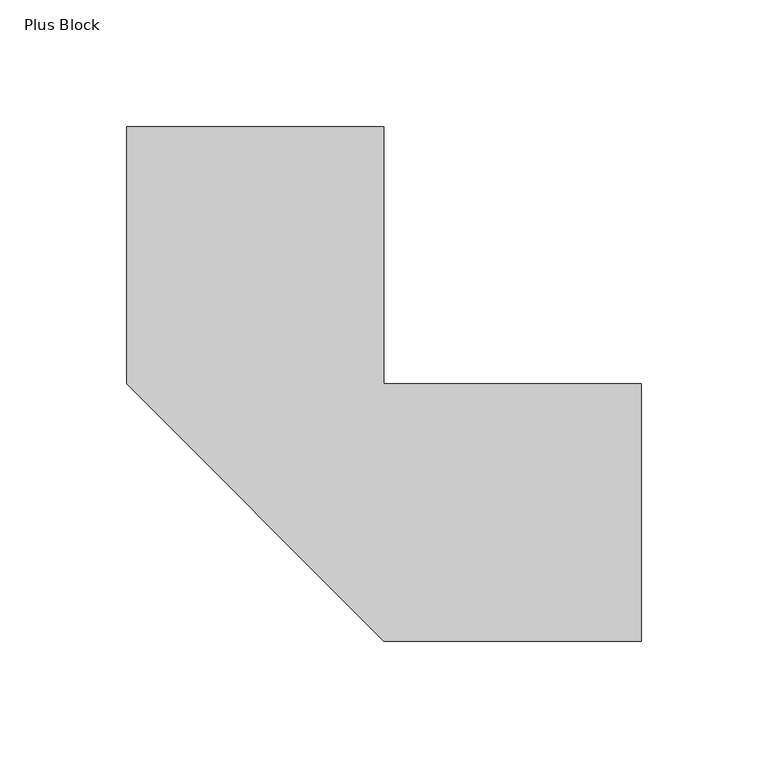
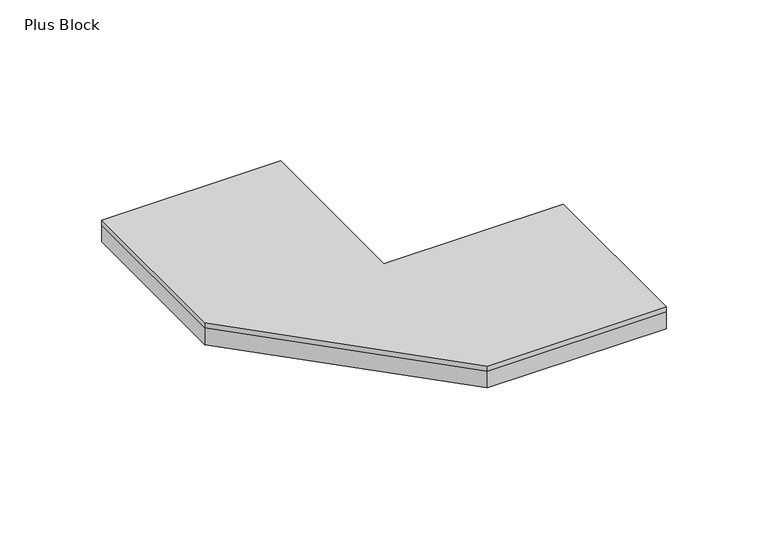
"""IFC4 building model written with IfcOpenShell, lengths in millimetres: proxy geometry, FilzFelt_Plus_Block : Plus Block."""

from ifc_helpers import new_model, si_unit, frame, origin, origin_with_axes, place, context, project, spatial, polyline, outline, extrude, source, transform, mapped, element, save


def plus_block_f92352bd(model_context):
    return source(origin(), model_context, "Body", "SweptSolid", [
        extrude(outline(polyline([(50.8333333, 50.8333333), (152.5, 50.8333333), (152.5, -50.8333333), (50.8333333, -50.8333333), (-50.8333333, 50.8333333), (-50.8333333, 152.5), (50.8333333, 152.5), (50.8333333, 50.8333333)])), frame((0.0, 0.0, 10.0210937), z_axis=(0.0, 0.0, 1.0), x_axis=(1.0, 0.0, 0.0)), (0.0, 0.0, 1.0), 2.9765625),
        extrude(outline(polyline([(-50.8333333, 50.8333333), (-50.8333333, 152.5), (50.8333333, 152.5), (50.8333333, 50.8333333), (152.5, 50.8333333), (152.5, -50.8333333), (50.8333333, -50.8333333), (-50.8333333, 50.8333333)])), origin_with_axes(), (0.0, 0.0, 1.0), 10.0210938),
    ])


if __name__ == "__main__":
    model = new_model("IFC4")
    model_context = context("Model", 3, world=origin())
    ifc_project = project(units=[si_unit("LENGTHUNIT", "METRE", prefix="MILLI")], contexts=[model_context])
    site = spatial("IfcSite", under=ifc_project)
    building = spatial("IfcBuilding", under=site)
    placement = place(None, origin())
    plus_block_shape = plus_block_f92352bd(model_context)
    element("IfcBuildingElementProxy", 1, Name="FilzFelt_Plus_Block : Plus Block", ObjectType="FilzFelt_Plus_Block : Plus Block", at=placement, inside=building, context=model_context, shape_type="MappedRepresentation", body=[
        mapped(plus_block_shape, transform((0.0, 0.0, 0.0), x_axis=(1.0, 0.0, 0.0), y_axis=(0.0, 1.0, 0.0), z_axis=(0.0, 0.0, 1.0))),
    ])
    save(model, "model.ifc")
